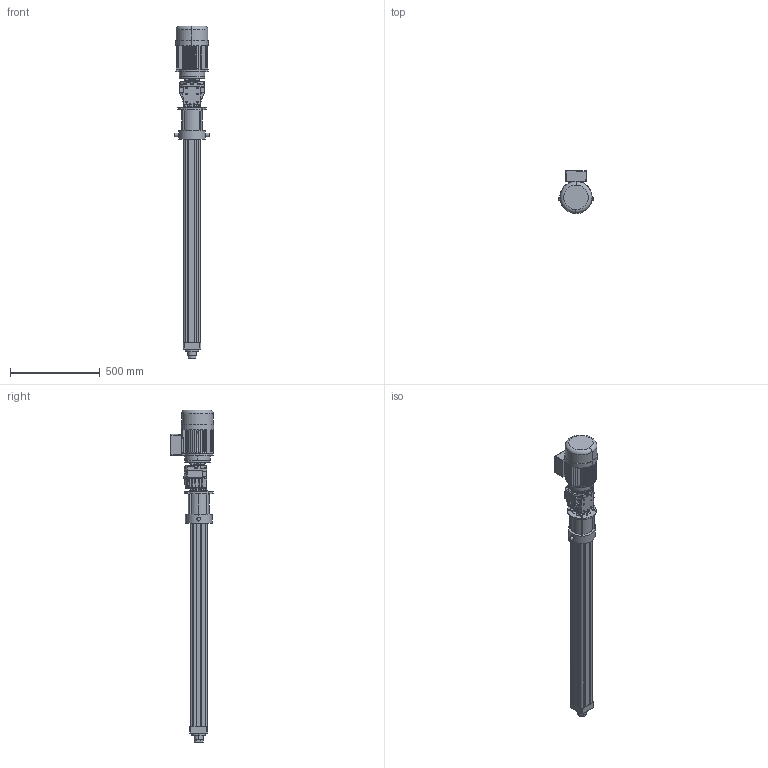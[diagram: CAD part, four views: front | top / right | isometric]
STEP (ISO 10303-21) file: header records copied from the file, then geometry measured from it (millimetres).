
FILE_DESCRIPTION (( 'STEP AP214' ), '1' );
FILE_NAME ('Ass MR80 TR C1000.STEP', '2016-12-07T15:16:42', ( 'Hubert' ), ( '' ), 'SwSTEP 2.0', 'SolidWorks 2014', '' );
FILE_SCHEMA (( 'AUTOMOTIVE_DESIGN' ));
Length unit declared in the file: millimetre
Products named in the file (10): PAAV 80 D; Profilé MRRV80 TR C1000; Tube MR 80 TR C1000; Ass 402A_F MOT 90; _AT_90_LB_4_B14__230-400-50_AC.3d1; _P_402A_-F_4,37_V_3_-T___B3.3d; Vis MRRV80 TR C1000; PAAR 80 B160; PAAR 80B160; Ass MR80 TR C1000
Assembly tree (9 placements, depth 3):
  Ass MR80 TR C1000
    PAAR 80 B160
      PAAR 80B160
    Vis MRRV80 TR C1000
    Ass 402A_F MOT 90
      _P_402A_-F_4,37_V_3_-T___B3.3d
      _AT_90_LB_4_B14__230-400-50_AC.3d1
    Tube MR 80 TR C1000
    Profilé MRRV80 TR C1000
    PAAV 80 D
Bounding box: 198 x 240.51 x 1844.8 mm (x, y, z)
Volume: 12546666.3 mm3; surface area: 2224193.4 mm2
Topology: 6 solids, 30 shells, 1724 faces, 4723 edges, 3099 vertices
Faces by surface type: plane 851, cylinder 475, cone 250, bspline 146, torus 2
Entity records: 98826 total; most frequent: CARTESIAN_POINT 40362, ORIENTED_EDGE 9332, DIRECTION 6885, EDGE_CURVE 4667, VERTEX_POINT 3099, VECTOR 2429, LINE 2429, AXIS2_PLACEMENT_3D 2228
